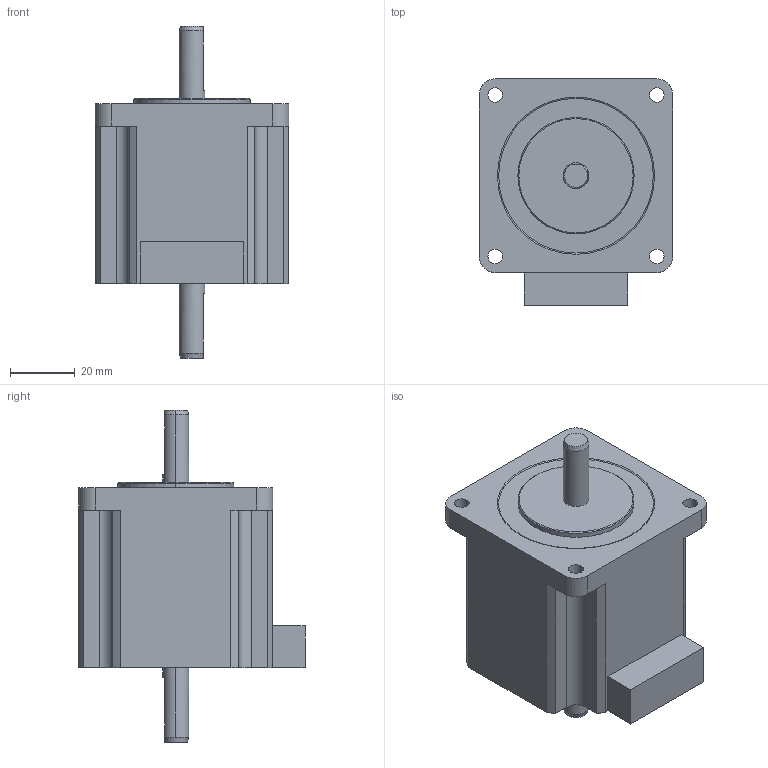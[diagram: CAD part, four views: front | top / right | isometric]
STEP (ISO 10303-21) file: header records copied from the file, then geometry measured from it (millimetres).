
FILE_DESCRIPTION (( 'STEP AP203' ), '1' );
FILE_NAME ('PMSA-U60D3D_3D.STEP', '2017-01-31T07:43:23', ( 'SKJ01072' ), ( '' ), 'SwSTEP 2.0', 'SolidWorks 2014', '' );
FILE_SCHEMA (( 'CONFIG_CONTROL_DESIGN' ));
Length unit declared in the file: millimetre
Products named in the file (1): PMSA-U60D3D_3D
Bounding box: 60 x 70 x 102.8 mm (x, y, z)
Volume: 186504.3 mm3; surface area: 22196.6 mm2
Topology: 1 solids, 1 shells, 73 faces, 198 edges, 131 vertices
Faces by surface type: plane 34, cylinder 30, cone 9
Entity records: 2452 total; most frequent: CARTESIAN_POINT 451, DIRECTION 417, ORIENTED_EDGE 396, EDGE_CURVE 198, AXIS2_PLACEMENT_3D 153, VERTEX_POINT 131, VECTOR 111, LINE 111
